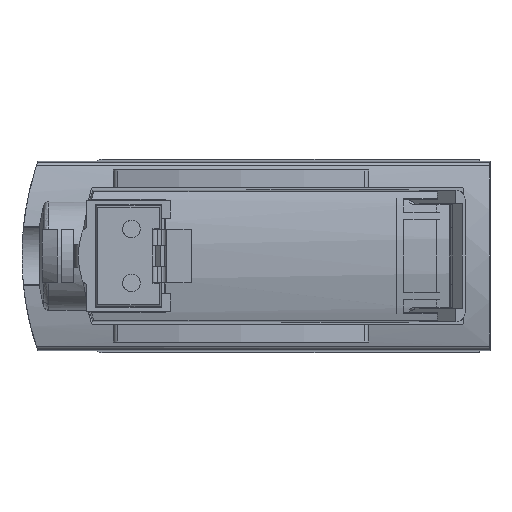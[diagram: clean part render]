
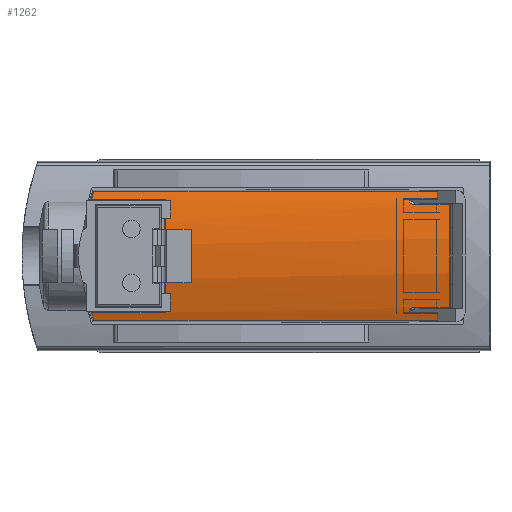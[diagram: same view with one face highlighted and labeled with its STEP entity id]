
A CAD part, left-side view. The second image highlights one B-rep face of the part: STEP entity #1262.
In plain terms, the highlighted cylindrical face has radius 15 mm (diameter 30 mm), a partial arc.
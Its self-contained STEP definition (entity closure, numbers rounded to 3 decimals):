
#1262 = ADVANCED_FACE( '', ( #2937 ), #2938, .T. );
#2937 = FACE_OUTER_BOUND( '', #5079, .T. );
#2938 = CYLINDRICAL_SURFACE( '', #5080, 15. );
#5079 = EDGE_LOOP( '', ( #8724, #8725, #8726, #8727, #8728, #8729, #8730, #8731, #8732, #8733, #8734, #8735, #8736, #8737, #8738, #8739 ) );
#5080 = AXIS2_PLACEMENT_3D( '', #8740, #8741, #8742 );
#8724 = ORIENTED_EDGE( '', *, *, #13499, .F. );
#8725 = ORIENTED_EDGE( '', *, *, #12768, .T. );
#8726 = ORIENTED_EDGE( '', *, *, #13125, .T. );
#8727 = ORIENTED_EDGE( '', *, *, #13992, .T. );
#8728 = ORIENTED_EDGE( '', *, *, #12736, .T. );
#8729 = ORIENTED_EDGE( '', *, *, #12765, .T. );
#8730 = ORIENTED_EDGE( '', *, *, #13993, .T. );
#8731 = ORIENTED_EDGE( '', *, *, #13994, .T. );
#8732 = ORIENTED_EDGE( '', *, *, #13645, .F. );
#8733 = ORIENTED_EDGE( '', *, *, #13995, .F. );
#8734 = ORIENTED_EDGE( '', *, *, #13996, .F. );
#8735 = ORIENTED_EDGE( '', *, *, #13997, .F. );
#8736 = ORIENTED_EDGE( '', *, *, #13757, .F. );
#8737 = ORIENTED_EDGE( '', *, *, #13970, .F. );
#8738 = ORIENTED_EDGE( '', *, *, #13361, .F. );
#8739 = ORIENTED_EDGE( '', *, *, #13395, .F. );
#8740 = CARTESIAN_POINT( '', ( -15., 30., 0. ) );
#8741 = DIRECTION( '', ( 0., 1., 0. ) );
#8742 = DIRECTION( '', ( 0., 0., -1. ) );
#12736 = EDGE_CURVE( '', #15211, #15208, #15212, .F. );
#12765 = EDGE_CURVE( '', #15208, #15264, #15266, .T. );
#12768 = EDGE_CURVE( '', #15271, #15269, #15272, .T. );
#13125 = EDGE_CURVE( '', #15269, #15900, #15902, .T. );
#13361 = EDGE_CURVE( '', #16306, #16308, #16309, .F. );
#13395 = EDGE_CURVE( '', #16361, #16306, #16363, .F. );
#13499 = EDGE_CURVE( '', #15271, #16361, #16536, .T. );
#13645 = EDGE_CURVE( '', #16778, #16780, #16781, .T. );
#13757 = EDGE_CURVE( '', #16955, #16957, #16958, .T. );
#13970 = EDGE_CURVE( '', #16308, #16955, #17268, .T. );
#13992 = EDGE_CURVE( '', #15900, #15211, #17297, .F. );
#13993 = EDGE_CURVE( '', #15264, #17298, #17299, .T. );
#13994 = EDGE_CURVE( '', #17298, #16780, #17300, .F. );
#13995 = EDGE_CURVE( '', #17301, #16778, #17302, .T. );
#13996 = EDGE_CURVE( '', #17303, #17301, #17304, .F. );
#13997 = EDGE_CURVE( '', #16957, #17303, #17305, .F. );
#15208 = VERTEX_POINT( '', #18846 );
#15211 = VERTEX_POINT( '', #18852 );
#15212 = LINE( '', #18853, #18854 );
#15264 = VERTEX_POINT( '', #18932 );
#15266 = B_SPLINE_CURVE_WITH_KNOTS( '', 3, ( #18937, #18938, #18939, #18940 ), .UNSPECIFIED., .F., .F., ( 4, 4 ), ( 0.009, 0.01 ), .UNSPECIFIED. );
#15269 = VERTEX_POINT( '', #18943 );
#15271 = VERTEX_POINT( '', #18948 );
#15272 = B_SPLINE_CURVE_WITH_KNOTS( '', 3, ( #18949, #18950, #18951, #18952 ), .UNSPECIFIED., .F., .F., ( 4, 4 ), ( 0., 0.001 ), .UNSPECIFIED. );
#15900 = VERTEX_POINT( '', #19943 );
#15902 = LINE( '', #19946, #19947 );
#16306 = VERTEX_POINT( '', #20529 );
#16308 = VERTEX_POINT( '', #20532 );
#16309 = LINE( '', #20533, #20534 );
#16361 = VERTEX_POINT( '', #20605 );
#16363 = ELLIPSE( '', #20608, 15.002, 15. );
#16536 = LINE( '', #20839, #20840 );
#16778 = VERTEX_POINT( '', #21185 );
#16780 = VERTEX_POINT( '', #21188 );
#16781 = LINE( '', #21189, #21190 );
#16955 = VERTEX_POINT( '', #21448 );
#16957 = VERTEX_POINT( '', #21451 );
#16958 = LINE( '', #21452, #21453 );
#17268 = B_SPLINE_CURVE_WITH_KNOTS( '', 3, ( #21897, #21898, #21899, #21900, #21901, #21902, #21903, #21904, #21905, #21906 ), .UNSPECIFIED., .F., .F., ( 4, 2, 2, 2, 4 ), ( 0., 0., 0., 0., 0.001 ), .UNSPECIFIED. );
#17297 = ELLIPSE( '', #21953, 15.002, 15. );
#17298 = VERTEX_POINT( '', #21954 );
#17299 = LINE( '', #21955, #21956 );
#17300 = ELLIPSE( '', #21957, 15.002, 15. );
#17301 = VERTEX_POINT( '', #21958 );
#17302 = B_SPLINE_CURVE_WITH_KNOTS( '', 3, ( #21959, #21960, #21961, #21962, #21963, #21964, #21965, #21966, #21967, #21968 ), .UNSPECIFIED., .F., .F., ( 4, 2, 2, 2, 4 ), ( 0., 0., 0., 0., 0.001 ), .UNSPECIFIED. );
#17303 = VERTEX_POINT( '', #21969 );
#17304 = LINE( '', #21970, #21971 );
#17305 = ELLIPSE( '', #21972, 15.009, 15. );
#18846 = CARTESIAN_POINT( '', ( -0.603, 26.584, 4.21 ) );
#18852 = CARTESIAN_POINT( '', ( -0.603, 21.096, 4.21 ) );
#18853 = CARTESIAN_POINT( '', ( -0.603, 30., 4.21 ) );
#18854 = VECTOR( '', #24293, 1000. );
#18932 = CARTESIAN_POINT( '', ( -0.783, 26.406, 4.784 ) );
#18937 = CARTESIAN_POINT( '', ( -0.603, 26.584, 4.21 ) );
#18938 = CARTESIAN_POINT( '', ( -0.659, 26.528, 4.403 ) );
#18939 = CARTESIAN_POINT( '', ( -0.72, 26.469, 4.595 ) );
#18940 = CARTESIAN_POINT( '', ( -0.783, 26.406, 4.784 ) );
#18943 = CARTESIAN_POINT( '', ( -0.603, 26.584, -4.21 ) );
#18948 = CARTESIAN_POINT( '', ( -0.783, 26.406, -4.784 ) );
#18949 = CARTESIAN_POINT( '', ( -0.783, 26.406, -4.784 ) );
#18950 = CARTESIAN_POINT( '', ( -0.719, 26.469, -4.594 ) );
#18951 = CARTESIAN_POINT( '', ( -0.659, 26.528, -4.403 ) );
#18952 = CARTESIAN_POINT( '', ( -0.603, 26.584, -4.21 ) );
#19943 = CARTESIAN_POINT( '', ( -0.603, 21.096, -4.21 ) );
#19946 = CARTESIAN_POINT( '', ( -0.603, 30., -4.21 ) );
#19947 = VECTOR( '', #24757, 1000. );
#20529 = CARTESIAN_POINT( '', ( -0.609, 0.861, -4.23 ) );
#20532 = CARTESIAN_POINT( '', ( -0.609, 2.722, -4.23 ) );
#20533 = CARTESIAN_POINT( '', ( -0.609, 30., -4.23 ) );
#20534 = VECTOR( '', #25070, 1000. );
#20605 = CARTESIAN_POINT( '', ( -0.783, 0.864, -4.784 ) );
#20608 = AXIS2_PLACEMENT_3D( '', #25112, #25113, #25114 );
#20839 = CARTESIAN_POINT( '', ( -0.783, 30., -4.784 ) );
#20840 = VECTOR( '', #25242, 1000. );
#21185 = CARTESIAN_POINT( '', ( -0.609, 2.722, 4.23 ) );
#21188 = CARTESIAN_POINT( '', ( -0.609, 0.861, 4.23 ) );
#21189 = CARTESIAN_POINT( '', ( -0.609, 30., 4.23 ) );
#21190 = VECTOR( '', #25416, 1000. );
#21448 = CARTESIAN_POINT( '', ( -0.503, 2.722, -3.851 ) );
#21451 = CARTESIAN_POINT( '', ( -0.503, -0.018, -3.851 ) );
#21452 = CARTESIAN_POINT( '', ( -0.503, 30., -3.851 ) );
#21453 = VECTOR( '', #25538, 1000. );
#21897 = CARTESIAN_POINT( '', ( -0.609, 2.722, -4.23 ) );
#21898 = CARTESIAN_POINT( '', ( -0.609, 2.773, -4.23 ) );
#21899 = CARTESIAN_POINT( '', ( -0.602, 2.823, -4.208 ) );
#21900 = CARTESIAN_POINT( '', ( -0.582, 2.892, -4.138 ) );
#21901 = CARTESIAN_POINT( '', ( -0.568, 2.911, -4.089 ) );
#21902 = CARTESIAN_POINT( '', ( -0.541, 2.912, -3.992 ) );
#21903 = CARTESIAN_POINT( '', ( -0.528, 2.892, -3.944 ) );
#21904 = CARTESIAN_POINT( '', ( -0.508, 2.822, -3.872 ) );
#21905 = CARTESIAN_POINT( '', ( -0.503, 2.773, -3.851 ) );
#21906 = CARTESIAN_POINT( '', ( -0.503, 2.722, -3.851 ) );
#21953 = AXIS2_PLACEMENT_3D( '', #25802, #25803, #25804 );
#21954 = CARTESIAN_POINT( '', ( -0.783, 0.864, 4.784 ) );
#21955 = CARTESIAN_POINT( '', ( -0.783, 30., 4.784 ) );
#21956 = VECTOR( '', #25805, 1000. );
#21957 = AXIS2_PLACEMENT_3D( '', #25806, #25807, #25808 );
#21958 = CARTESIAN_POINT( '', ( -0.503, 2.722, 3.851 ) );
#21959 = CARTESIAN_POINT( '', ( -0.503, 2.722, 3.851 ) );
#21960 = CARTESIAN_POINT( '', ( -0.503, 2.773, 3.851 ) );
#21961 = CARTESIAN_POINT( '', ( -0.508, 2.823, 3.873 ) );
#21962 = CARTESIAN_POINT( '', ( -0.528, 2.892, 3.943 ) );
#21963 = CARTESIAN_POINT( '', ( -0.541, 2.912, 3.992 ) );
#21964 = CARTESIAN_POINT( '', ( -0.568, 2.911, 4.089 ) );
#21965 = CARTESIAN_POINT( '', ( -0.582, 2.892, 4.138 ) );
#21966 = CARTESIAN_POINT( '', ( -0.603, 2.822, 4.209 ) );
#21967 = CARTESIAN_POINT( '', ( -0.609, 2.773, 4.23 ) );
#21968 = CARTESIAN_POINT( '', ( -0.609, 2.722, 4.23 ) );
#21969 = CARTESIAN_POINT( '', ( -0.503, -0.018, 3.851 ) );
#21970 = CARTESIAN_POINT( '', ( -0.503, 30., 3.851 ) );
#21971 = VECTOR( '', #25809, 1000. );
#21972 = AXIS2_PLACEMENT_3D( '', #25810, #25811, #25812 );
#24293 = DIRECTION( '', ( 0., -1., 0. ) );
#24757 = DIRECTION( '', ( 0., -1., 0. ) );
#25070 = DIRECTION( '', ( 0., -1., 0. ) );
#25112 = CARTESIAN_POINT( '', ( -15., 1.112, 0. ) );
#25113 = DIRECTION( '', ( 0.017, 1., 0. ) );
#25114 = DIRECTION( '', ( 1., -0.017, 0. ) );
#25242 = DIRECTION( '', ( 0., -1., 0. ) );
#25416 = DIRECTION( '', ( 0., -1., 0. ) );
#25538 = DIRECTION( '', ( 0., -1., 0. ) );
#25802 = CARTESIAN_POINT( '', ( -15., 20.845, 0. ) );
#25803 = DIRECTION( '', ( -0.017, 1., 0. ) );
#25804 = DIRECTION( '', ( -1., -0.017, 0. ) );
#25805 = DIRECTION( '', ( 0., -1., 0. ) );
#25806 = CARTESIAN_POINT( '', ( -15., 1.112, 0. ) );
#25807 = DIRECTION( '', ( -0.017, -1., 0. ) );
#25808 = DIRECTION( '', ( 1., -0.017, 0. ) );
#25809 = DIRECTION( '', ( 0., -1., 0. ) );
#25810 = CARTESIAN_POINT( '', ( -15., -0.524, 0. ) );
#25811 = DIRECTION( '', ( -0.035, 0.999, 0. ) );
#25812 = DIRECTION( '', ( -0.999, -0.035, 0. ) );
